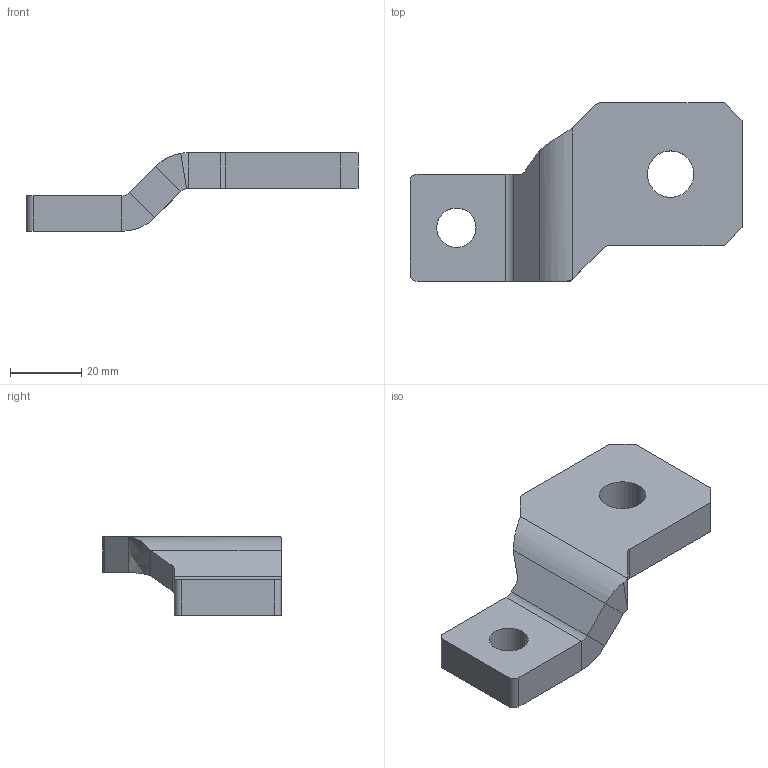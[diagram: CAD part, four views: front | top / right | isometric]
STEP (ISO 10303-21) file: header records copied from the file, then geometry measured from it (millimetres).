
FILE_DESCRIPTION (( 'STEP AP203' ), '1' );
FILE_NAME ('8LD.580.1112.STEP', '2023-09-21T01:08:14', ( '' ), ( '' ), 'SwSTEP 2.0', 'SolidWorks 2018', '' );
FILE_SCHEMA (( 'CONFIG_CONTROL_DESIGN' ));
Length unit declared in the file: millimetre
Products named in the file (1): 8LD.580.1112
Bounding box: 93 x 50 x 22 mm (x, y, z)
Volume: 32424.8 mm3; surface area: 9931.1 mm2
Topology: 1 solids, 1 shells, 38 faces, 92 edges, 56 vertices
Faces by surface type: plane 22, cylinder 14, bspline 2
Entity records: 1199 total; most frequent: CARTESIAN_POINT 229, ORIENTED_EDGE 184, DIRECTION 184, EDGE_CURVE 92, AXIS2_PLACEMENT_3D 63, LINE 58, VECTOR 58, VERTEX_POINT 56
